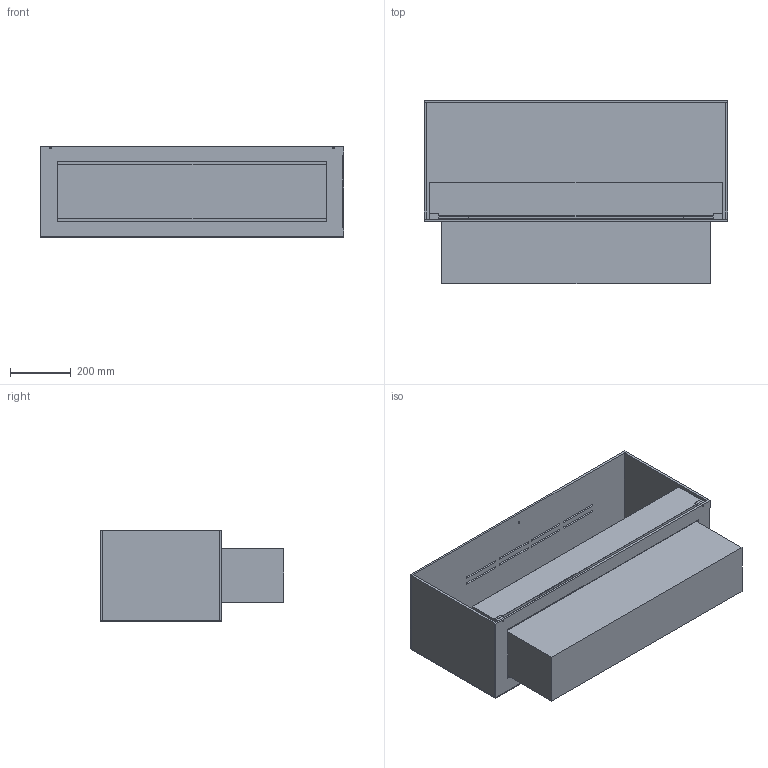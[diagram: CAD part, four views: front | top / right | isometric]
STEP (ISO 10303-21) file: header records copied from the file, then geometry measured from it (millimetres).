
FILE_DESCRIPTION (( 'STEP AP203' ), '1' );
FILE_NAME ('Montreal open front 1000 Hybird Mist.STEP', '2024-03-13T10:41:40', ( '' ), ( '' ), 'SwSTEP 2.0', 'SolidWorks 2023', '' );
FILE_SCHEMA (( 'CONFIG_CONTROL_DESIGN' ));
Length unit declared in the file: millimetre
Products named in the file (9): Part3^P&G -1120SI Montreal Single AUTOShowroom -look book; Montreal open front 1000 Hybird Mist; 8mm alu Bund - P&G -1120SIShowroom -look book; 8mm alu Top - P&G -1120SIShowroom -look book; 3mm alu Bag - P&G -1120SIShowroom -look book; 8mm alu Side - P&G -1120SIShowroom -look book_Glass; Glas holder flad med sider 10mm; Part1^P&G -1120SI Montreal Single AUTOShowroom -look book; Denver F6_uden glass
Assembly tree (9 placements, depth 2):
  Part3^P&G -1120SI Montreal Single AUTOShowroom -look book
  Montreal open front 1000 Hybird Mist
    8mm alu Top - P&G -1120SIShowroom -look book
    8mm alu Bund - P&G -1120SIShowroom -look book
    8mm alu Side - P&G -1120SIShowroom -look book_Glass  x2
    3mm alu Bag - P&G -1120SIShowroom -look book
    Glas holder flad med sider 10mm  x2
    Part1^P&G -1120SI Montreal Single AUTOShowroom -look book
    Denver F6_uden glass
Bounding box: 1000 x 605 x 300 mm (x, y, z)
Volume: 41798055.5 mm3; surface area: 3674283.9 mm2
Topology: 13 solids, 13 shells, 233 faces, 612 edges, 408 vertices
Faces by surface type: plane 165, cylinder 68
Entity records: 7546 total; most frequent: CARTESIAN_POINT 1152, DIRECTION 1126, ORIENTED_EDGE 1116, EDGE_CURVE 558, VECTOR 434, LINE 434, VERTEX_POINT 372, AXIS2_PLACEMENT_3D 346
